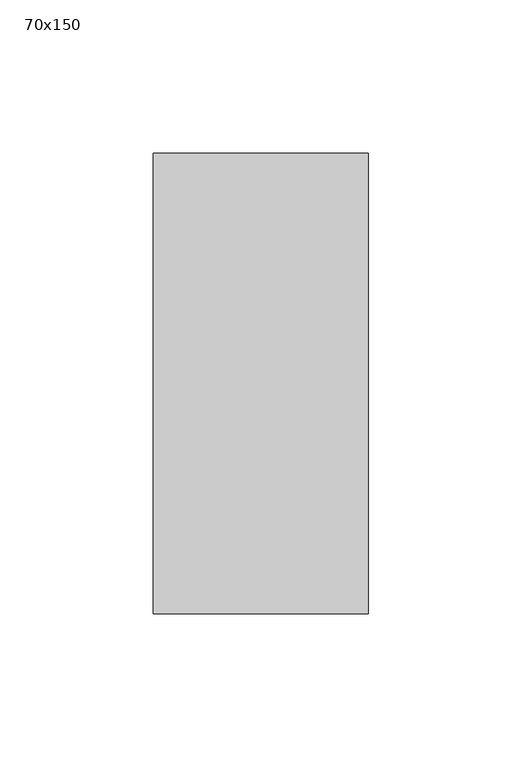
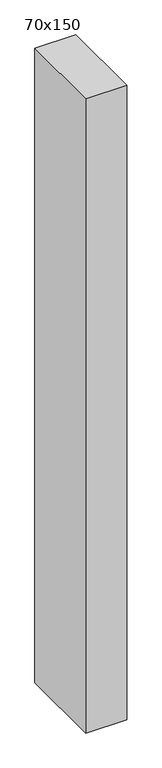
"""IFC4 building model written with IfcOpenShell, lengths in millimetres: member geometry, 長方形のマリオン : 70x150."""

from ifc_helpers import new_model, si_unit, frame, origin, place, context, project, spatial, polyline, outline, extrude, source, transform, mapped, element, save


def member_70x150_65f8fb8c(model_context):
    return source(origin(), model_context, "Body", "SweptSolid", [
        extrude(outline(polyline([(0.0, 75.0), (0.0, -75.0), (-70.0, -75.0), (-70.0, 75.0), (0.0, 75.0)])), frame((0.0, 0.0, -1145.0), z_axis=(0.0, 0.0, 1.0), x_axis=(1.0, 0.0, 0.0)), (0.0, 0.0, 1.0), 1145.0),
    ])


if __name__ == "__main__":
    model = new_model("IFC4")
    model_context = context("Model", 3, world=origin())
    ifc_project = project(units=[si_unit("LENGTHUNIT", "METRE", prefix="MILLI")], contexts=[model_context])
    site = spatial("IfcSite", under=ifc_project)
    building = spatial("IfcBuilding", under=site)
    placement = place(None, origin())
    member_70x150_shape = member_70x150_65f8fb8c(model_context)
    element("IfcMember", 1, ObjectType="長方形のマリオン : 70x150", at=placement, inside=building, context=model_context, shape_type="MappedRepresentation", body=[
        mapped(member_70x150_shape, transform((0.0, 0.0, 0.0), x_axis=(1.0, 0.0, 0.0), y_axis=(0.0, 1.0, 0.0), z_axis=(0.0, 0.0, 1.0))),
    ])
    save(model, "model.ifc")
